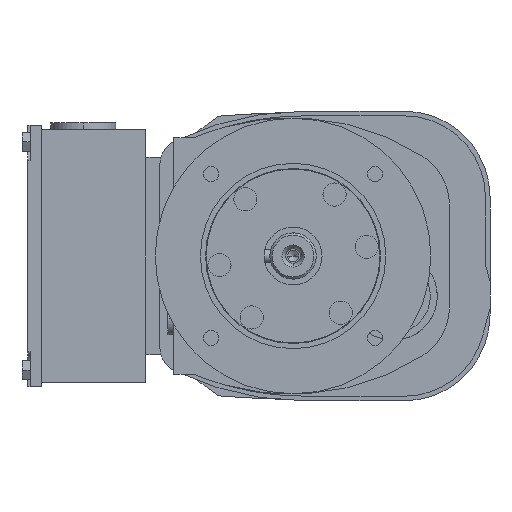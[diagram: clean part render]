
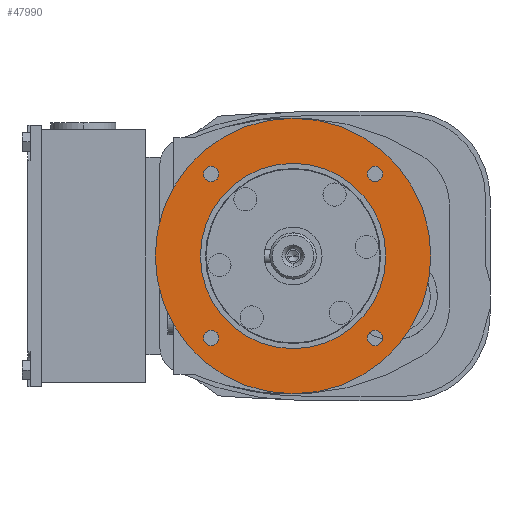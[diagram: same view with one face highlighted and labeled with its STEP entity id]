
A CAD part, left-side view. The second image highlights one B-rep face of the part: STEP entity #47990.
In plain terms, the highlighted planar face has unit normal (-1, 0, 0).
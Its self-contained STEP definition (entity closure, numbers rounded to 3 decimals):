
#44960=CARTESIAN_POINT('',(40.,0.,59.483));
#44970=VERTEX_POINT('',#44960);
#45130=CARTESIAN_POINT('',(40.,0.,-59.483));
#45140=VERTEX_POINT('',#45130);
#45170=CARTESIAN_POINT('',(40.,0.,0.));
#45180=DIRECTION('',(-1.,0.,0.));
#45190=DIRECTION('',(0.,0.,1.));
#45200=AXIS2_PLACEMENT_3D('',#45170,#45180,#45190);
#45210=CIRCLE('',#45200,59.483);
#45220=EDGE_CURVE('',#45140,#44970,#45210,.T.);
#47140=CARTESIAN_POINT('',(40.,0.,52.074));
#47150=DIRECTION('',(-1.,-0.,-0.));
#47160=DIRECTION('',(0.,0.,-1.));
#47170=AXIS2_PLACEMENT_3D('',#47140,#47150,#47160);
#47180=PLANE('',#47170);
#47190=CARTESIAN_POINT('',(40.,-35.355,-35.355));
#47200=DIRECTION('',(-1.,0.,0.));
#47210=DIRECTION('',(0.,0.,-1.));
#47220=AXIS2_PLACEMENT_3D('',#47190,#47200,#47210);
#47230=CIRCLE('',#47220,3.3);
#47240=CARTESIAN_POINT('',(40.,-35.355,-38.655));
#47250=VERTEX_POINT('',#47240);
#47260=CARTESIAN_POINT('',(40.,-35.355,-32.055));
#47270=VERTEX_POINT('',#47260);
#47280=EDGE_CURVE('',#47250,#47270,#47230,.T.);
#47290=ORIENTED_EDGE('',*,*,#47280,.F.);
#47300=EDGE_CURVE('',#47270,#47250,#47230,.T.);
#47310=ORIENTED_EDGE('',*,*,#47300,.F.);
#47320=EDGE_LOOP('',(#47310,#47290));
#47330=FACE_BOUND('',#47320,.T.);
#47340=CARTESIAN_POINT('',(40.,35.355,-35.355));
#47350=DIRECTION('',(-1.,0.,0.));
#47360=DIRECTION('',(0.,1.,0.));
#47370=AXIS2_PLACEMENT_3D('',#47340,#47350,#47360);
#47380=CIRCLE('',#47370,3.3);
#47390=CARTESIAN_POINT('',(40.,38.655,-35.355));
#47400=VERTEX_POINT('',#47390);
#47410=CARTESIAN_POINT('',(40.,32.055,-35.355));
#47420=VERTEX_POINT('',#47410);
#47430=EDGE_CURVE('',#47400,#47420,#47380,.T.);
#47440=ORIENTED_EDGE('',*,*,#47430,.F.);
#47450=EDGE_CURVE('',#47420,#47400,#47380,.T.);
#47460=ORIENTED_EDGE('',*,*,#47450,.F.);
#47470=EDGE_LOOP('',(#47460,#47440));
#47480=FACE_BOUND('',#47470,.T.);
#47490=CARTESIAN_POINT('',(40.,0.,0.));
#47500=DIRECTION('',(-1.,0.,0.));
#47510=DIRECTION('',(0.,0.,-1.));
#47520=AXIS2_PLACEMENT_3D('',#47490,#47500,#47510);
#47530=CIRCLE('',#47520,40.);
#47540=CARTESIAN_POINT('',(40.,0.,40.));
#47550=VERTEX_POINT('',#47540);
#47560=CARTESIAN_POINT('',(40.,0.,-40.));
#47570=VERTEX_POINT('',#47560);
#47580=EDGE_CURVE('',#47550,#47570,#47530,.T.);
#47590=ORIENTED_EDGE('',*,*,#47580,.F.);
#47600=EDGE_CURVE('',#47570,#47550,#47530,.T.);
#47610=ORIENTED_EDGE('',*,*,#47600,.F.);
#47620=EDGE_LOOP('',(#47610,#47590));
#47630=FACE_BOUND('',#47620,.T.);
#47640=CARTESIAN_POINT('',(40.,-35.355,35.355));
#47650=DIRECTION('',(-1.,0.,0.));
#47660=DIRECTION('',(0.,-1.,0.));
#47670=AXIS2_PLACEMENT_3D('',#47640,#47650,#47660);
#47680=CIRCLE('',#47670,3.3);
#47690=CARTESIAN_POINT('',(40.,-38.655,35.355));
#47700=VERTEX_POINT('',#47690);
#47710=CARTESIAN_POINT('',(40.,-32.055,35.355));
#47720=VERTEX_POINT('',#47710);
#47730=EDGE_CURVE('',#47700,#47720,#47680,.T.);
#47740=ORIENTED_EDGE('',*,*,#47730,.F.);
#47750=EDGE_CURVE('',#47720,#47700,#47680,.T.);
#47760=ORIENTED_EDGE('',*,*,#47750,.F.);
#47770=EDGE_LOOP('',(#47760,#47740));
#47780=FACE_BOUND('',#47770,.T.);
#47790=CARTESIAN_POINT('',(40.,35.355,35.355));
#47800=DIRECTION('',(-1.,0.,0.));
#47810=DIRECTION('',(0.,0.,1.));
#47820=AXIS2_PLACEMENT_3D('',#47790,#47800,#47810);
#47830=CIRCLE('',#47820,3.3);
#47840=CARTESIAN_POINT('',(40.,35.355,38.655));
#47850=VERTEX_POINT('',#47840);
#47860=CARTESIAN_POINT('',(40.,35.355,32.055));
#47870=VERTEX_POINT('',#47860);
#47880=EDGE_CURVE('',#47850,#47870,#47830,.T.);
#47890=ORIENTED_EDGE('',*,*,#47880,.F.);
#47900=EDGE_CURVE('',#47870,#47850,#47830,.T.);
#47910=ORIENTED_EDGE('',*,*,#47900,.F.);
#47920=EDGE_LOOP('',(#47910,#47890));
#47930=FACE_BOUND('',#47920,.T.);
#47940=EDGE_CURVE('',#44970,#45140,#45210,.T.);
#47950=ORIENTED_EDGE('',*,*,#47940,.T.);
#47960=ORIENTED_EDGE('',*,*,#45220,.T.);
#47970=EDGE_LOOP('',(#47960,#47950));
#47980=FACE_OUTER_BOUND('',#47970,.T.);
#47990=ADVANCED_FACE('',(#47330,#47480,#47630,#47780,#47930,#47980),#47180,.T.);
